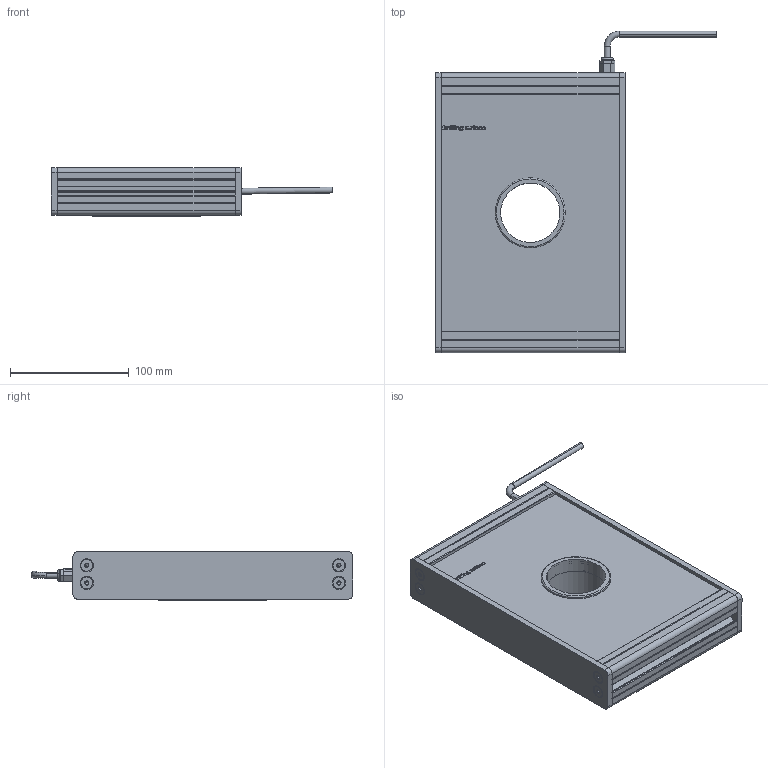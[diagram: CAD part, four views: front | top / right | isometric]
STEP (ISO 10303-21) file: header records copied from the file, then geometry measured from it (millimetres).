
FILE_DESCRIPTION (( 'STEP AP214' ), '1' );
FILE_NAME ('EFFI-FD-150T-200-M12 Ø50.STEP', '2021-07-02T12:10:31', ( '' ), ( '' ), 'SwSTEP 2.0', 'SolidWorks 2021', '' );
FILE_SCHEMA (( 'AUTOMOTIVE_DESIGN' ));
Length unit declared in the file: millimetre
Products named in the file (11): 001040; bord fin modif_lg 436.5 mm; Assemblage Ø50; EFFI-FD-150T-200-M12 Ø50; cordon_Avec cable; 000590; profile modif_lg 99.5 mm; 001039; Pièce2^EFFI-FD-XXXT-YYY-M12 Ø50; 003776
Assembly tree (20 placements, depth 3):
  EFFI-FD-150T-200-M12 Ø50
    profile modif_lg 99.5 mm
    bord fin modif_lg 436.5 mm  x2
    Pièce2^EFFI-FD-XXXT-YYY-M12 Ø50
    profile modif_lg 99.5 mm
    003776  x8
    cordon_Avec cable
    Assemblage Ø50
      001039
      001040
      000590  x3
Bounding box: 237.13 x 271.15 x 41 mm (x, y, z)
Volume: 1261257.4 mm3; surface area: 210000.7 mm2
Topology: 18 solids, 24 shells, 997 faces, 2503 edges, 1569 vertices
Faces by surface type: plane 391, cylinder 231, bspline 180, cone 152, torus 35, sphere 8
Entity records: 25439 total; most frequent: CARTESIAN_POINT 8620, ORIENTED_EDGE 3290, DIRECTION 3029, EDGE_CURVE 1649, VERTEX_POINT 1066, AXIS2_PLACEMENT_3D 1021, VECTOR 987, LINE 987
